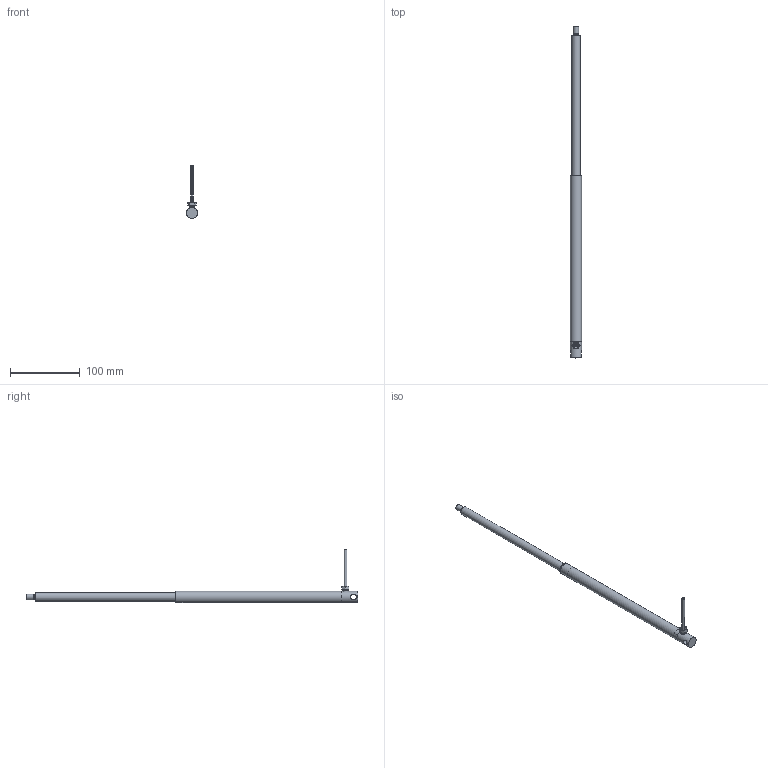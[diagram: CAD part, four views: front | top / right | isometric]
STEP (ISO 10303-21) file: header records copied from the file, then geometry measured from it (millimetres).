
FILE_DESCRIPTION(/* description */ ('Unknown'),/* implementation_level */ '2;1');
FILE_NAME(/* name */ '107.00072 Zylinder CE 1420_ausgefahren',/* time_stamp */ '2018-05-18T17:07:17+02:00',/* author */ ('Unknown'),/* organization */ ('Unknown'),/* preprocessor_version */ 'ST-DEVELOPER v16.7',/* originating_system */ 'DEX',/* authorisation */ $);
FILE_SCHEMA (('AUTOMOTIVE_DESIGN {1 0 10303 214 3 1 1}'));
Length unit declared in the file: millimetre
Products named in the file (9): 107.00072; 121.00002; 142.00021; 125.00021; 115.00001_oa_0; 125.00034; 120.00022; 122.00001; 113.00002_70mm
Assembly tree (8 placements, depth 2):
  107.00072
    121.00002
    142.00021
    125.00021
    115.00001_oa_0
    125.00034
    120.00022
    122.00001
    113.00002_70mm
Bounding box: 16 x 476 x 76 mm (x, y, z)
Volume: 43046.4 mm3; surface area: 37555.1 mm2
Topology: 7 solids, 7 shells, 86 faces, 182 edges, 116 vertices
Faces by surface type: plane 29, cylinder 28, cone 23, torus 5, sphere 1
Full cylindrical faces by diameter (mm): 2.2 x1, 3 x1, 3.5 x1, 4 x1, 4.1 x1, 4.2 x1, 6 x1, 6.917 x2, 7.763 x2, 8 x5, 8.1 x3, 9 x1, 12 x2, 13.9 x2, 14 x2, 16 x2
Entity records: 2678 total; most frequent: CARTESIAN_POINT 430, DIRECTION 356, ORIENTED_EDGE 220, AXIS2_PLACEMENT_3D 169, FACE_BOUND 161, EDGE_LOOP 159, EDGE_CURVE 110, VERTEX_POINT 99
